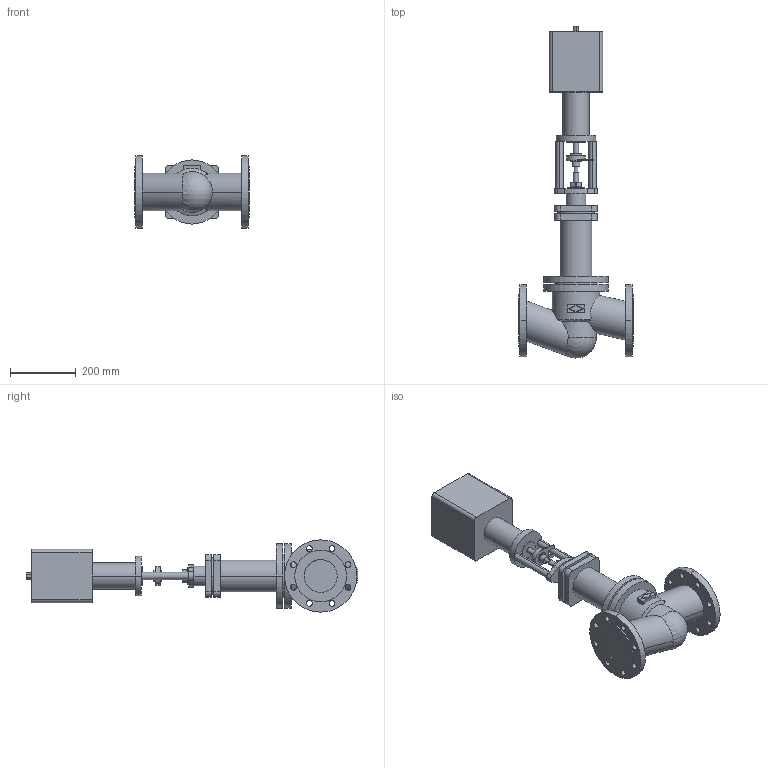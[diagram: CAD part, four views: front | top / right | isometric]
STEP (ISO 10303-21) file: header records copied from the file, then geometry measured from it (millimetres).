
FILE_DESCRIPTION( ( '' ), '1' );
FILE_NAME( 'F:/DE-SHS/TB/OR/04-Sonstiges/daten/files_3d/441-FR2.2/441-PN16-FR2_2/c000004553.stp', '2014-11-06T11:22:36', ( '' ), ( '' ), ' ', ' ', ' ' );
FILE_SCHEMA( ( 'CONFIG_CONTROL_DESIGN' ) );
Length unit declared in the file: millimetre
Products named in the file (2): 1; 2
Bounding box: 350 x 1010.75 x 220 mm (x, y, z)
Volume: 15484568.1 mm3; surface area: 798123.5 mm2
Topology: 2 solids, 2 shells, 206 faces, 510 edges, 338 vertices
Faces by surface type: cylinder 114, plane 89, cone 2, sphere 1
Entity records: 6865 total; most frequent: CARTESIAN_POINT 1598, DIRECTION 1151, ORIENTED_EDGE 1016, EDGE_CURVE 508, AXIS2_PLACEMENT_3D 449, VERTEX_POINT 338, EDGE_LOOP 270, LINE 253
